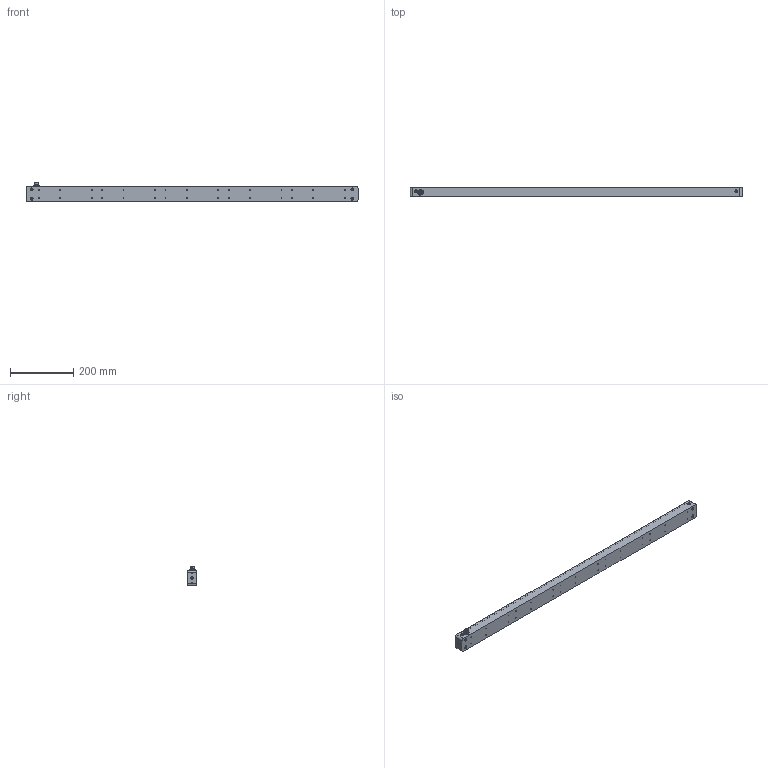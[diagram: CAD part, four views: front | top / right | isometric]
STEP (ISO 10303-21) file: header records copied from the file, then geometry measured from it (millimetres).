
FILE_DESCRIPTION(/* description */ (''),/* implementation_level */ '2;1');
FILE_NAME(/* name */ 'P:/1058_Scalable_Lighting/07_scalable_50mm_line/Mech drawings/01_Stand_alone/Product length 1050/User/10580701_1050_V1.0.1.step',/* time_stamp */ '2019-11-25T23:47:28+01:00',/* author */ (''),/* organization */ (''),/* preprocessor_version */ 'ST-DEVELOPER v18',/* originating_system */ 'Autodesk Translation Framework v8.12.0.6',/* authorisation */ '');
FILE_SCHEMA (('AUTOMOTIVE_DESIGN { 1 0 10303 214 3 1 1 }'));
Length unit declared in the file: millimetre
Products named in the file (1): 10580701_1050_V1.0.1
Bounding box: 1050 x 30 x 63 mm (x, y, z)
Volume: 595047 mm3; surface area: 323879.1 mm2
Topology: 1 solids, 18 shells, 493 faces, 1360 edges, 917 vertices
Faces by surface type: plane 251, cylinder 101, cone 73, bspline 54, torus 14
Full cylindrical faces by diameter (mm): 0.56 x4, 1 x4, 2.5 x30, 3.3 x8, 4 x8, 4.2 x8, 5.283 x4, 7.283 x2, 8.3 x1, 8.4 x8, 9.85 x1, 10 x1, 10.5 x1, 10.65 x1, 12 x1, 12.15 x1, 13.4 x1, 14.5 x1, 16.5 x1
Entity records: 18279 total; most frequent: CARTESIAN_POINT 5693, ORIENTED_EDGE 2676, DIRECTION 2562, EDGE_CURVE 1338, AXIS2_PLACEMENT_3D 969, VERTEX_POINT 917, LINE 624, VECTOR 624
